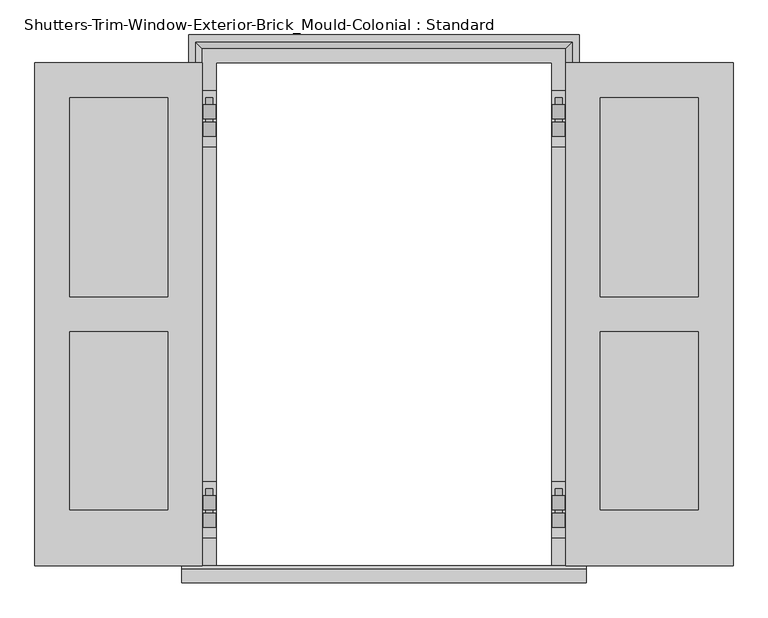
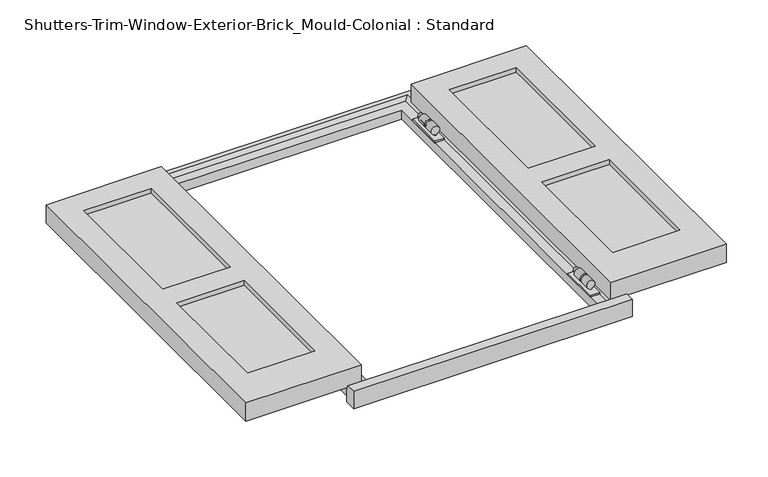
"""IFC4 building model written with IfcOpenShell, lengths in millimetres: proxy geometry, Shutters-Trim-Window-Exterior-Brick_Mould-Colonial : Standard."""

from ifc_helpers import new_model, si_unit, frame, origin, place, context, project, spatial, polyline, circle_curve, outline, extrude, faceted_brep, source, transform, mapped, element, save
from ifc_brep_helpers import plane_surface, cylinder_surface, revolved_surface, advanced_brep


def shutters_trim_window_exterior_brick_mould_colonial_standard_74fb2969(model_context):
    return source(origin(), model_context, "Body", "SolidModel", [
        extrude(outline(polyline([(-635.0, 0.0), (-330.2, 0.0), (-330.2, -914.4), (-635.0, -914.4), (-635.0, 0.0)]), holes=[polyline([(-571.5, -63.5), (-571.5, -425.45), (-393.7, -425.45), (-393.7, -63.5), (-571.5, -63.5)]), polyline([(-393.7, -488.95), (-571.5, -488.95), (-571.5, -812.8), (-393.7, -812.8), (-393.7, -488.95)])]), frame((0.0, 0.0, 38.89375), z_axis=(0.0, 0.0, 1.0), x_axis=(1.0, 0.0, 0.0)), (0.0, 0.0, 1.0), 50.8),
        extrude(outline(polyline([(-571.5, -63.5), (-393.7, -63.5), (-393.7, -425.45), (-571.5, -425.45), (-571.5, -63.5)])), frame((0.0, 0.0, 51.59375), z_axis=(0.0, 0.0, 1.0), x_axis=(1.0, 0.0, 0.0)), (0.0, 0.0, 1.0), 25.4),
        extrude(outline(polyline([(-393.7, -488.95), (-393.7, -812.8), (-571.5, -812.8), (-571.5, -488.95), (-393.7, -488.95)])), frame((0.0, 0.0, 51.59375), z_axis=(0.0, 0.0, 1.0), x_axis=(1.0, 0.0, 0.0)), (0.0, 0.0, 1.0), 25.4),
        extrude(outline(polyline([(635.0, 0.0), (635.0, -914.4), (330.2, -914.4), (330.2, 0.0), (635.0, 0.0)]), holes=[polyline([(571.5, -63.5), (393.7, -63.5), (393.7, -425.45), (571.5, -425.45), (571.5, -63.5)]), polyline([(393.7, -488.95), (393.7, -812.8), (571.5, -812.8), (571.5, -488.95), (393.7, -488.95)])]), frame((0.0, 0.0, 38.89375), z_axis=(0.0, 0.0, 1.0), x_axis=(1.0, 0.0, 0.0)), (0.0, 0.0, 1.0), 50.8),
        extrude(outline(polyline([(571.5, -63.5), (571.5, -425.45), (393.7, -425.45), (393.7, -63.5), (571.5, -63.5)])), frame((0.0, 0.0, 51.59375), z_axis=(0.0, 0.0, 1.0), x_axis=(1.0, 0.0, 0.0)), (0.0, 0.0, 1.0), 25.4),
        extrude(outline(polyline([(393.7, -488.95), (571.5, -488.95), (571.5, -812.8), (393.7, -812.8), (393.7, -488.95)])), frame((0.0, 0.0, 51.59375), z_axis=(0.0, 0.0, 1.0), x_axis=(1.0, 0.0, 0.0)), (0.0, 0.0, 1.0), 25.4),
        extrude(outline(polyline([(-330.2, -762.0), (-304.8, -762.0), (-304.8, -863.6), (-330.2, -863.6), (-330.2, -762.0)])), frame((0.0, 0.0, 26.19375), z_axis=(0.0, 0.0, 1.0), x_axis=(1.0, 0.0, 0.0)), (0.0, 0.0, 1.0), 4.7625),
        advanced_brep(
        [(-382.5875, -774.7, 38.89375), (-357.124, -774.7, 38.89375), (-357.124, -774.7, 34.13125), (-382.5875, -774.7, 34.13125), (-382.5875, -825.5, 34.13125), (-357.124, -825.5, 34.13125), (-357.124, -825.5, 38.89375), (-382.5875, -825.5, 38.89375), (-357.124, -787.4, 34.13125), (-317.5, -787.4, 34.13125), (-317.5, -812.8, 34.13125), (-357.124, -812.8, 34.13125), (-357.124, -812.8, 38.89375), (-317.5, -812.8, 38.89375), (-317.5, -787.4, 38.89375), (-357.124, -787.4, 38.89375), (-323.85, -812.8, 45.24375), (-323.85, -787.4, 45.24375), (-323.85, -812.8, 40.48125), (-323.85, -787.4, 40.48125), (-328.6125, -812.8, 40.48125), (-328.6125, -787.4, 40.48125), (-328.6125, -812.8, 45.24375), (-328.6125, -787.4, 45.24375)],
        [
            (0, 1),
            (1, 2),
            (2, 3),
            (3, 0),
            (4, 5),
            (5, 6),
            (6, 7),
            (7, 4),
            (2, 8),
            (8, 9),
            (9, 10),
            (10, 11),
            (11, 5),
            (4, 3),
            (7, 0),
            (6, 12),
            (12, 13),
            (13, 14),
            (14, 15),
            (15, 1),
            (16, 17),
            (17, 14, circle_curve(frame((-317.5, -787.4, 45.24375), z_axis=(0.0, 1.0, 0.0), x_axis=(1.0, 0.0, 0.0)), 6.35)),
            (13, 16, circle_curve(frame((-317.5, -812.8, 45.24375), z_axis=(0.0, -1.0, 0.0), x_axis=(1.0, 0.0, 0.0)), 6.35)),
            (18, 19),
            (19, 17),
            (16, 18),
            (20, 21),
            (21, 19),
            (18, 20),
            (22, 23),
            (23, 21),
            (20, 22),
            (9, 23, circle_curve(frame((-317.5, -787.4, 45.24375), z_axis=(0.0, -1.0, 0.0), x_axis=(1.0, 0.0, 0.0)), 11.1125)),
            (22, 10, circle_curve(frame((-317.5, -812.8, 45.24375), z_axis=(0.0, 1.0, 0.0), x_axis=(1.0, 0.0, 0.0)), 11.1125)),
            (12, 11),
            (8, 15),
        ],
        [
            plane_surface(frame((-317.5, -774.7, 45.24375), z_axis=(0.0, 1.0, 0.0), x_axis=(0.0, 0.0, 1.0))),
            plane_surface(frame((-317.5, -825.5, 45.24375), z_axis=(0.0, -1.0, 0.0), x_axis=(0.0, 0.0, 1.0))),
            plane_surface(frame((-382.5875, -774.7, 34.13125), z_axis=(0.0, 0.0, -1.0), x_axis=(0.0, -1.0, 0.0))),
            plane_surface(frame((-382.5875, -774.7, 38.89375), z_axis=(-1.0, 0.0, 0.0), x_axis=(0.0, -1.0, 0.0))),
            plane_surface(frame((-317.5, -774.7, 38.89375), z_axis=(0.0, 0.0, 1.0), x_axis=(0.0, -1.0, 0.0))),
            revolved_surface(polyline([(-311.15, -812.8, 45.24375), (-311.15, -787.4, 45.24375)]), (-317.5, -774.7, 45.24375), (0.0, -1.0, 0.0)),
            plane_surface(frame((-323.85, -774.7, 40.48125), z_axis=(1.0, 0.0, 0.0), x_axis=(0.0, -1.0, 0.0))),
            plane_surface(frame((-328.6125, -774.7, 40.48125), z_axis=(0.0, 0.0, -1.0), x_axis=(0.0, -1.0, 0.0))),
            plane_surface(frame((-328.6125, -774.7, 45.24375), z_axis=(-1.0, 0.0, 0.0), x_axis=(0.0, -1.0, 0.0))),
            cylinder_surface(frame((-317.5, -774.7, 45.24375), z_axis=(0.0, 1.0, 0.0), x_axis=(1.0, 0.0, 0.0)), 11.1125),
            plane_surface(frame((-317.5, -812.8, 45.24375), z_axis=(0.0, -1.0, 0.0), x_axis=(0.0, 0.0, 1.0))),
            plane_surface(frame((-357.124, -812.8, 38.89375), z_axis=(1.0, 0.0, 0.0), x_axis=(0.0, -1.0, 0.0))),
            plane_surface(frame((-317.5, -787.4, 45.24375), z_axis=(0.0, 1.0, 0.0), x_axis=(0.0, 0.0, 1.0))),
            plane_surface(frame((-357.124, -774.7, 38.89375), z_axis=(1.0, 0.0, 0.0), x_axis=(0.0, -1.0, 0.0))),
        ],
        [
            (0, [[1, 2, 3, 4]]),
            (1, [[5, 6, 7, 8]]),
            (2, [[-3, 9, 10, 11, 12, 13, -5, 14]]),
            (3, [[-14, -8, 15, -4]]),
            (4, [[-7, 16, 17, 18, 19, 20, -1, -15]]),
            (5, [[21, 22, -18, 23]]),
            (6, [[24, 25, -21, 26]]),
            (7, [[27, 28, -24, 29]]),
            (8, [[30, 31, -27, 32]]),
            (9, [[-11, 33, -30, 34]]),
            (10, [[-12, -34, -32, -29, -26, -23, -17, 35]]),
            (11, [[-16, -6, -13, -35]]),
            (12, [[-19, -22, -25, -28, -31, -33, -10, 36]]),
            (13, [[-9, -2, -20, -36]]),
        ],
    ),
        advanced_brep(
        [(-319.88125, -819.15, 30.95625), (-319.88125, -819.15, 34.389382), (-315.11875, -819.15, 34.389382), (-315.11875, -819.15, 30.95625), (-311.15, -819.15, 45.24375), (-323.85, -819.15, 45.24375), (-319.88125, -844.55, 30.95625), (-315.11875, -844.55, 30.95625), (-315.11875, -844.55, 34.389382), (-319.88125, -844.55, 34.389382), (-323.85, -774.7, 45.24375), (-311.15, -774.7, 45.24375)],
        [
            (0, 1),
            (1, 2, circle_curve(frame((-317.5, -819.15, 45.24375), z_axis=(0.0, 1.0, 0.0), x_axis=(1.0, 0.0, 0.0)), 11.1125)),
            (2, 3),
            (3, 0),
            (4, 5, circle_curve(frame((-317.5, -819.15, 45.24375), z_axis=(0.0, -1.0, 0.0), x_axis=(1.0, 0.0, 0.0)), 6.35)),
            (5, 4, circle_curve(frame((-317.5, -819.15, 45.24375), z_axis=(0.0, -1.0, 0.0), x_axis=(1.0, 0.0, 0.0)), 6.35)),
            (6, 7),
            (7, 8),
            (8, 9, circle_curve(frame((-317.5, -844.55, 45.24375), z_axis=(0.0, -1.0, 0.0), x_axis=(1.0, 0.0, 0.0)), 11.1125)),
            (9, 6),
            (0, 6),
            (9, 1),
            (3, 7),
            (2, 8),
            (10, 11, circle_curve(frame((-317.5, -774.7, 45.24375), z_axis=(0.0, 1.0, 0.0), x_axis=(1.0, 0.0, 0.0)), 6.35)),
            (11, 10, circle_curve(frame((-317.5, -774.7, 45.24375), z_axis=(0.0, 1.0, 0.0), x_axis=(1.0, 0.0, 0.0)), 6.35)),
            (11, 4),
            (5, 10),
        ],
        [
            plane_surface(frame((-315.11875, -819.15, 30.95625), z_axis=(0.0, 1.0, 0.0), x_axis=(1.0, 0.0, 6.242784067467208e-12))),
            plane_surface(frame((-315.11875, -844.55, 30.95625), z_axis=(0.0, -1.0, 0.0), x_axis=(-1.0, 0.0, -6.242784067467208e-12))),
            plane_surface(frame((-319.88125, -819.15, 34.389382), z_axis=(-1.0, 0.0, 0.0), x_axis=(0.0, -1.0, 0.0))),
            plane_surface(frame((-319.88125, -819.15, 30.95625), z_axis=(6.242784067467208e-12, 0.0, -1.0), x_axis=(0.0, -1.0, 0.0))),
            plane_surface(frame((-315.11875, -819.15, 30.95625), z_axis=(1.0, 0.0, 0.0), x_axis=(0.0, -1.0, 0.0))),
            cylinder_surface(frame((-317.5, -844.55, 45.24375), z_axis=(0.0, 1.0, 0.0), x_axis=(1.0, 0.0, 0.0)), 11.1125),
            plane_surface(frame((-311.15, -774.7, 45.24375), z_axis=(0.0, 1.0, 0.0), x_axis=(0.0, 0.0, 1.0))),
            cylinder_surface(frame((-317.5, -844.55, 45.24375), z_axis=(0.0, 1.0, 0.0), x_axis=(1.0, 0.0, 0.0)), 6.35),
        ],
        [
            (0, [[1, 2, 3, 4], [5, 6]]),
            (1, [[7, 8, 9, 10]]),
            (2, [[11, -10, 12, -1]]),
            (3, [[13, -7, -11, -4]]),
            (4, [[14, -8, -13, -3]]),
            (5, [[-12, -9, -14, -2]]),
            (6, [[15, 16]]),
            (7, [[17, -6, 18, -16]]),
            (7, [[-18, -5, -17, -15]]),
        ],
    ),
        extrude(outline(polyline([(330.2, -762.0), (330.2, -863.6), (304.8, -863.6), (304.8, -762.0), (330.2, -762.0)])), frame((0.0, 0.0, 26.19375), z_axis=(0.0, 0.0, 1.0), x_axis=(1.0, 0.0, 0.0)), (0.0, 0.0, 1.0), 4.7625),
        advanced_brep(
        [(382.5875, -774.7, 38.89375), (382.5875, -774.7, 34.13125), (357.124, -774.7, 34.13125), (357.124, -774.7, 38.89375), (382.5875, -825.5, 34.13125), (382.5875, -825.5, 38.89375), (357.124, -825.5, 38.89375), (357.124, -825.5, 34.13125), (357.124, -812.8, 34.13125), (317.5, -812.8, 34.13125), (317.5, -787.4, 34.13125), (357.124, -787.4, 34.13125), (357.124, -787.4, 38.89375), (317.5, -787.4, 38.89375), (317.5, -812.8, 38.89375), (357.124, -812.8, 38.89375), (323.85, -812.8, 45.24375), (323.85, -787.4, 45.24375), (323.85, -812.8, 40.48125), (323.85, -787.4, 40.48125), (328.6125, -812.8, 40.48125), (328.6125, -787.4, 40.48125), (328.6125, -812.8, 45.24375), (328.6125, -787.4, 45.24375)],
        [
            (0, 1),
            (1, 2),
            (2, 3),
            (3, 0),
            (4, 5),
            (5, 6),
            (6, 7),
            (7, 4),
            (1, 4),
            (7, 8),
            (8, 9),
            (9, 10),
            (10, 11),
            (11, 2),
            (0, 5),
            (3, 12),
            (12, 13),
            (13, 14),
            (14, 15),
            (15, 6),
            (16, 14, circle_curve(frame((317.5, -812.8, 45.24375), z_axis=(0.0, -1.0, 0.0), x_axis=(-1.0, 0.0, 0.0)), 6.35)),
            (13, 17, circle_curve(frame((317.5, -787.4, 45.24375), z_axis=(0.0, 1.0, 0.0), x_axis=(-1.0, 0.0, 0.0)), 6.35)),
            (17, 16),
            (18, 16),
            (17, 19),
            (19, 18),
            (20, 18),
            (19, 21),
            (21, 20),
            (22, 20),
            (21, 23),
            (23, 22),
            (9, 22, circle_curve(frame((317.5, -812.8, 45.24375), z_axis=(0.0, 1.0, 0.0), x_axis=(-1.0, 0.0, 0.0)), 11.1125)),
            (23, 10, circle_curve(frame((317.5, -787.4, 45.24375), z_axis=(0.0, -1.0, 0.0), x_axis=(-1.0, 0.0, 0.0)), 11.1125)),
            (8, 15),
            (12, 11),
        ],
        [
            plane_surface(frame((317.5, -774.7, 45.24375), z_axis=(0.0, 1.0, 0.0), x_axis=(0.0, 0.0, 1.0))),
            plane_surface(frame((317.5, -825.5, 45.24375), z_axis=(0.0, -1.0, 0.0), x_axis=(0.0, 0.0, 1.0))),
            plane_surface(frame((382.5875, -774.7, 34.13125), z_axis=(0.0, 0.0, -1.0), x_axis=(0.0, -1.0, 0.0))),
            plane_surface(frame((382.5875, -774.7, 38.89375), z_axis=(1.0, 0.0, 0.0), x_axis=(0.0, -1.0, 0.0))),
            plane_surface(frame((317.5, -774.7, 38.89375), z_axis=(0.0, 0.0, 1.0), x_axis=(0.0, -1.0, 0.0))),
            revolved_surface(polyline([(311.15, -812.8, 45.24375), (311.15, -787.4, 45.24375)]), (317.5, -774.7, 45.24375), (0.0, -1.0, 0.0)),
            plane_surface(frame((323.85, -774.7, 40.48125), z_axis=(-1.0, 0.0, 0.0), x_axis=(0.0, -1.0, 0.0))),
            plane_surface(frame((328.6125, -774.7, 40.48125), z_axis=(0.0, 0.0, -1.0), x_axis=(0.0, -1.0, 0.0))),
            plane_surface(frame((328.6125, -774.7, 45.24375), z_axis=(1.0, 0.0, 0.0), x_axis=(0.0, -1.0, 0.0))),
            cylinder_surface(frame((317.5, -774.7, 45.24375), z_axis=(0.0, 1.0, 0.0), x_axis=(-1.0, 0.0, 0.0)), 11.1125),
            plane_surface(frame((317.5, -812.8, 45.24375), z_axis=(0.0, -1.0, 0.0), x_axis=(0.0, 0.0, 1.0))),
            plane_surface(frame((357.124, -812.8, 38.89375), z_axis=(-1.0, 0.0, 0.0), x_axis=(0.0, -1.0, 0.0))),
            plane_surface(frame((317.5, -787.4, 45.24375), z_axis=(0.0, 1.0, 0.0), x_axis=(0.0, 0.0, 1.0))),
            plane_surface(frame((357.124, -774.7, 38.89375), z_axis=(-1.0, 0.0, 0.0), x_axis=(0.0, -1.0, 0.0))),
        ],
        [
            (0, [[1, 2, 3, 4]]),
            (1, [[5, 6, 7, 8]]),
            (2, [[9, -8, 10, 11, 12, 13, 14, -2]]),
            (3, [[-1, 15, -5, -9]]),
            (4, [[-15, -4, 16, 17, 18, 19, 20, -6]]),
            (5, [[21, -18, 22, 23]]),
            (6, [[24, -23, 25, 26]]),
            (7, [[27, -26, 28, 29]]),
            (8, [[30, -29, 31, 32]]),
            (9, [[33, -32, 34, -12]]),
            (10, [[35, -19, -21, -24, -27, -30, -33, -11]]),
            (11, [[-35, -10, -7, -20]]),
            (12, [[36, -13, -34, -31, -28, -25, -22, -17]]),
            (13, [[-36, -16, -3, -14]]),
        ],
    ),
        advanced_brep(
        [(319.88125, -819.15, 30.95625), (315.11875, -819.15, 30.95625), (315.11875, -819.15, 34.389382), (319.88125, -819.15, 34.389382), (311.15, -819.15, 45.24375), (323.85, -819.15, 45.24375), (319.88125, -844.55, 30.95625), (319.88125, -844.55, 34.389382), (315.11875, -844.55, 34.389382), (315.11875, -844.55, 30.95625), (323.85, -774.7, 45.24375), (311.15, -774.7, 45.24375)],
        [
            (0, 1),
            (1, 2),
            (2, 3, circle_curve(frame((317.5, -819.15, 45.24375), z_axis=(0.0, 1.0, 0.0), x_axis=(-1.0, 0.0, 0.0)), 11.1125)),
            (3, 0),
            (4, 5, circle_curve(frame((317.5, -819.15, 45.24375), z_axis=(0.0, -1.0, 0.0), x_axis=(-1.0, 0.0, 0.0)), 6.35)),
            (5, 4, circle_curve(frame((317.5, -819.15, 45.24375), z_axis=(0.0, -1.0, 0.0), x_axis=(-1.0, 0.0, 0.0)), 6.35)),
            (6, 7),
            (7, 8, circle_curve(frame((317.5, -844.55, 45.24375), z_axis=(0.0, -1.0, 0.0), x_axis=(-1.0, 0.0, 0.0)), 11.1125)),
            (8, 9),
            (9, 6),
            (3, 7),
            (6, 0),
            (9, 1),
            (8, 2),
            (10, 11, circle_curve(frame((317.5, -774.7, 45.24375), z_axis=(0.0, 1.0, 0.0), x_axis=(-1.0, 0.0, 0.0)), 6.35)),
            (11, 10, circle_curve(frame((317.5, -774.7, 45.24375), z_axis=(0.0, 1.0, 0.0), x_axis=(-1.0, 0.0, 0.0)), 6.35)),
            (10, 5),
            (4, 11),
        ],
        [
            plane_surface(frame((315.11875, -819.15, 30.95625), z_axis=(0.0, 1.0, 0.0), x_axis=(-1.0, 0.0, 6.242784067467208e-12))),
            plane_surface(frame((315.11875, -844.55, 30.95625), z_axis=(0.0, -1.0, 0.0), x_axis=(1.0, 0.0, -6.242784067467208e-12))),
            plane_surface(frame((319.88125, -819.15, 34.389382), z_axis=(1.0, 0.0, 0.0), x_axis=(0.0, -1.0, 0.0))),
            plane_surface(frame((319.88125, -819.15, 30.95625), z_axis=(-6.242784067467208e-12, 0.0, -1.0), x_axis=(0.0, -1.0, 0.0))),
            plane_surface(frame((315.11875, -819.15, 30.95625), z_axis=(-1.0, 0.0, 0.0), x_axis=(0.0, -1.0, 0.0))),
            cylinder_surface(frame((317.5, -844.55, 45.24375), z_axis=(0.0, 1.0, 0.0), x_axis=(-1.0, 0.0, 0.0)), 11.1125),
            plane_surface(frame((311.15, -774.7, 45.24375), z_axis=(0.0, 1.0, 0.0), x_axis=(0.0, 0.0, 1.0))),
            cylinder_surface(frame((317.5, -844.55, 45.24375), z_axis=(0.0, 1.0, 0.0), x_axis=(-1.0, 0.0, 0.0)), 6.35),
        ],
        [
            (0, [[1, 2, 3, 4], [5, 6]]),
            (1, [[7, 8, 9, 10]]),
            (2, [[-4, 11, -7, 12]]),
            (3, [[-1, -12, -10, 13]]),
            (4, [[-2, -13, -9, 14]]),
            (5, [[-3, -14, -8, -11]]),
            (6, [[15, 16]]),
            (7, [[-15, 17, -5, 18]]),
            (7, [[-16, -18, -6, -17]]),
        ],
    ),
        extrude(outline(polyline([(330.2, -50.8), (330.2, -152.4), (304.8, -152.4), (304.8, -50.8), (330.2, -50.8)])), frame((0.0, 0.0, 26.19375), z_axis=(0.0, 0.0, 1.0), x_axis=(1.0, 0.0, 0.0)), (0.0, 0.0, 1.0), 4.7625),
        advanced_brep(
        [(382.5875, -63.5, 38.89375), (382.5875, -63.5, 34.13125), (357.124, -63.5, 34.13125), (357.124, -63.5, 38.89375), (382.5875, -114.3, 34.13125), (382.5875, -114.3, 38.89375), (357.124, -114.3, 38.89375), (357.124, -114.3, 34.13125), (357.124, -101.6, 34.13125), (317.5, -101.6, 34.13125), (317.5, -76.2, 34.13125), (357.124, -76.2, 34.13125), (357.124, -76.2, 38.89375), (317.5, -76.2, 38.89375), (317.5, -101.6, 38.89375), (357.124, -101.6, 38.89375), (323.85, -101.6, 45.24375), (323.85, -76.2, 45.24375), (323.85, -101.6, 40.48125), (323.85, -76.2, 40.48125), (328.6125, -101.6, 40.48125), (328.6125, -76.2, 40.48125), (328.6125, -101.6, 45.24375), (328.6125, -76.2, 45.24375)],
        [
            (0, 1),
            (1, 2),
            (2, 3),
            (3, 0),
            (4, 5),
            (5, 6),
            (6, 7),
            (7, 4),
            (1, 4),
            (7, 8),
            (8, 9),
            (9, 10),
            (10, 11),
            (11, 2),
            (0, 5),
            (3, 12),
            (12, 13),
            (13, 14),
            (14, 15),
            (15, 6),
            (16, 14, circle_curve(frame((317.5, -101.6, 45.24375), z_axis=(0.0, -1.0, 0.0), x_axis=(-1.0, 0.0, 0.0)), 6.35)),
            (13, 17, circle_curve(frame((317.5, -76.2, 45.24375), z_axis=(0.0, 1.0, 0.0), x_axis=(-1.0, 0.0, 0.0)), 6.35)),
            (17, 16),
            (18, 16),
            (17, 19),
            (19, 18),
            (20, 18),
            (19, 21),
            (21, 20),
            (22, 20),
            (21, 23),
            (23, 22),
            (9, 22, circle_curve(frame((317.5, -101.6, 45.24375), z_axis=(0.0, 1.0, 0.0), x_axis=(-1.0, 0.0, 0.0)), 11.1125)),
            (23, 10, circle_curve(frame((317.5, -76.2, 45.24375), z_axis=(0.0, -1.0, 0.0), x_axis=(-1.0, 0.0, 0.0)), 11.1125)),
            (8, 15),
            (12, 11),
        ],
        [
            plane_surface(frame((317.5, -63.5, 45.24375), z_axis=(0.0, 1.0, 0.0), x_axis=(0.0, 0.0, 1.0))),
            plane_surface(frame((317.5, -114.3, 45.24375), z_axis=(0.0, -1.0, 0.0), x_axis=(0.0, 0.0, 1.0))),
            plane_surface(frame((382.5875, -63.5, 34.13125), z_axis=(0.0, 0.0, -1.0), x_axis=(0.0, -1.0, 0.0))),
            plane_surface(frame((382.5875, -63.5, 38.89375), z_axis=(1.0, 0.0, 0.0), x_axis=(0.0, -1.0, 0.0))),
            plane_surface(frame((317.5, -63.5, 38.89375), z_axis=(0.0, 0.0, 1.0), x_axis=(0.0, -1.0, 0.0))),
            revolved_surface(polyline([(311.15, -101.6, 45.24375), (311.15, -76.2, 45.24375)]), (317.5, -63.5, 45.24375), (0.0, -1.0, 0.0)),
            plane_surface(frame((323.85, -63.5, 40.48125), z_axis=(-1.0, 0.0, 0.0), x_axis=(0.0, -1.0, 0.0))),
            plane_surface(frame((328.6125, -63.5, 40.48125), z_axis=(0.0, 0.0, -1.0), x_axis=(0.0, -1.0, 0.0))),
            plane_surface(frame((328.6125, -63.5, 45.24375), z_axis=(1.0, 0.0, 0.0), x_axis=(0.0, -1.0, 0.0))),
            cylinder_surface(frame((317.5, -63.5, 45.24375), z_axis=(0.0, 1.0, 0.0), x_axis=(-1.0, 0.0, 0.0)), 11.1125),
            plane_surface(frame((317.5, -101.6, 45.24375), z_axis=(0.0, -1.0, 0.0), x_axis=(0.0, 0.0, 1.0))),
            plane_surface(frame((357.124, -101.6, 38.89375), z_axis=(-1.0, 0.0, 0.0), x_axis=(0.0, -1.0, 0.0))),
            plane_surface(frame((317.5, -76.2, 45.24375), z_axis=(0.0, 1.0, 0.0), x_axis=(0.0, 0.0, 1.0))),
            plane_surface(frame((357.124, -63.5, 38.89375), z_axis=(-1.0, 0.0, 0.0), x_axis=(0.0, -1.0, 0.0))),
        ],
        [
            (0, [[1, 2, 3, 4]]),
            (1, [[5, 6, 7, 8]]),
            (2, [[9, -8, 10, 11, 12, 13, 14, -2]]),
            (3, [[-1, 15, -5, -9]]),
            (4, [[-15, -4, 16, 17, 18, 19, 20, -6]]),
            (5, [[21, -18, 22, 23]]),
            (6, [[24, -23, 25, 26]]),
            (7, [[27, -26, 28, 29]]),
            (8, [[30, -29, 31, 32]]),
            (9, [[33, -32, 34, -12]]),
            (10, [[35, -19, -21, -24, -27, -30, -33, -11]]),
            (11, [[-35, -10, -7, -20]]),
            (12, [[36, -13, -34, -31, -28, -25, -22, -17]]),
            (13, [[-36, -16, -3, -14]]),
        ],
    ),
        advanced_brep(
        [(319.88125, -107.95, 30.95625), (315.11875, -107.95, 30.95625), (315.11875, -107.95, 34.389382), (319.88125, -107.95, 34.389382), (311.15, -107.95, 45.24375), (323.85, -107.95, 45.24375), (319.88125, -133.35, 30.95625), (319.88125, -133.35, 34.389382), (315.11875, -133.35, 34.389382), (315.11875, -133.35, 30.95625), (323.85, -63.5, 45.24375), (311.15, -63.5, 45.24375)],
        [
            (0, 1),
            (1, 2),
            (2, 3, circle_curve(frame((317.5, -107.95, 45.24375), z_axis=(0.0, 1.0, 0.0), x_axis=(-1.0, 0.0, 0.0)), 11.1125)),
            (3, 0),
            (4, 5, circle_curve(frame((317.5, -107.95, 45.24375), z_axis=(0.0, -1.0, 0.0), x_axis=(-1.0, 0.0, 0.0)), 6.35)),
            (5, 4, circle_curve(frame((317.5, -107.95, 45.24375), z_axis=(0.0, -1.0, 0.0), x_axis=(-1.0, 0.0, 0.0)), 6.35)),
            (6, 7),
            (7, 8, circle_curve(frame((317.5, -133.35, 45.24375), z_axis=(0.0, -1.0, 0.0), x_axis=(-1.0, 0.0, 0.0)), 11.1125)),
            (8, 9),
            (9, 6),
            (3, 7),
            (6, 0),
            (9, 1),
            (8, 2),
            (10, 11, circle_curve(frame((317.5, -63.5, 45.24375), z_axis=(0.0, 1.0, 0.0), x_axis=(-1.0, 0.0, 0.0)), 6.35)),
            (11, 10, circle_curve(frame((317.5, -63.5, 45.24375), z_axis=(0.0, 1.0, 0.0), x_axis=(-1.0, 0.0, 0.0)), 6.35)),
            (10, 5),
            (4, 11),
        ],
        [
            plane_surface(frame((315.11875, -107.95, 30.95625), z_axis=(0.0, 1.0, 0.0), x_axis=(-1.0, 0.0, 6.242784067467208e-12))),
            plane_surface(frame((315.11875, -133.35, 30.95625), z_axis=(0.0, -1.0, 0.0), x_axis=(1.0, 0.0, -6.242784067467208e-12))),
            plane_surface(frame((319.88125, -107.95, 34.389382), z_axis=(1.0, 0.0, 0.0), x_axis=(0.0, -1.0, 0.0))),
            plane_surface(frame((319.88125, -107.95, 30.95625), z_axis=(-6.242784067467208e-12, 0.0, -1.0), x_axis=(0.0, -1.0, 0.0))),
            plane_surface(frame((315.11875, -107.95, 30.95625), z_axis=(-1.0, 0.0, 0.0), x_axis=(0.0, -1.0, 0.0))),
            cylinder_surface(frame((317.5, -133.35, 45.24375), z_axis=(0.0, 1.0, 0.0), x_axis=(-1.0, 0.0, 0.0)), 11.1125),
            plane_surface(frame((311.15, -63.5, 45.24375), z_axis=(0.0, 1.0, 0.0), x_axis=(0.0, 0.0, 1.0))),
            cylinder_surface(frame((317.5, -133.35, 45.24375), z_axis=(0.0, 1.0, 0.0), x_axis=(-1.0, 0.0, 0.0)), 6.35),
        ],
        [
            (0, [[1, 2, 3, 4], [5, 6]]),
            (1, [[7, 8, 9, 10]]),
            (2, [[-4, 11, -7, 12]]),
            (3, [[-1, -12, -10, 13]]),
            (4, [[-2, -13, -9, 14]]),
            (5, [[-3, -14, -8, -11]]),
            (6, [[15, 16]]),
            (7, [[-15, 17, -5, 18]]),
            (7, [[-16, -18, -6, -17]]),
        ],
    ),
        extrude(outline(polyline([(-330.2, -50.8), (-304.8, -50.8), (-304.8, -152.4), (-330.2, -152.4), (-330.2, -50.8)])), frame((0.0, 0.0, 26.19375), z_axis=(0.0, 0.0, 1.0), x_axis=(1.0, 0.0, 0.0)), (0.0, 0.0, 1.0), 4.7625),
        advanced_brep(
        [(-382.5875, -63.5, 38.89375), (-357.124, -63.5, 38.89375), (-357.124, -63.5, 34.13125), (-382.5875, -63.5, 34.13125), (-382.5875, -114.3, 34.13125), (-357.124, -114.3, 34.13125), (-357.124, -114.3, 38.89375), (-382.5875, -114.3, 38.89375), (-357.124, -76.2, 34.13125), (-317.5, -76.2, 34.13125), (-317.5, -101.6, 34.13125), (-357.124, -101.6, 34.13125), (-357.124, -101.6, 38.89375), (-317.5, -101.6, 38.89375), (-317.5, -76.2, 38.89375), (-357.124, -76.2, 38.89375), (-323.85, -101.6, 45.24375), (-323.85, -76.2, 45.24375), (-323.85, -101.6, 40.48125), (-323.85, -76.2, 40.48125), (-328.6125, -101.6, 40.48125), (-328.6125, -76.2, 40.48125), (-328.6125, -101.6, 45.24375), (-328.6125, -76.2, 45.24375)],
        [
            (0, 1),
            (1, 2),
            (2, 3),
            (3, 0),
            (4, 5),
            (5, 6),
            (6, 7),
            (7, 4),
            (2, 8),
            (8, 9),
            (9, 10),
            (10, 11),
            (11, 5),
            (4, 3),
            (7, 0),
            (6, 12),
            (12, 13),
            (13, 14),
            (14, 15),
            (15, 1),
            (16, 17),
            (17, 14, circle_curve(frame((-317.5, -76.2, 45.24375), z_axis=(0.0, 1.0, 0.0), x_axis=(1.0, 0.0, 0.0)), 6.35)),
            (13, 16, circle_curve(frame((-317.5, -101.6, 45.24375), z_axis=(0.0, -1.0, 0.0), x_axis=(1.0, 0.0, 0.0)), 6.35)),
            (18, 19),
            (19, 17),
            (16, 18),
            (20, 21),
            (21, 19),
            (18, 20),
            (22, 23),
            (23, 21),
            (20, 22),
            (9, 23, circle_curve(frame((-317.5, -76.2, 45.24375), z_axis=(0.0, -1.0, 0.0), x_axis=(1.0, 0.0, 0.0)), 11.1125)),
            (22, 10, circle_curve(frame((-317.5, -101.6, 45.24375), z_axis=(0.0, 1.0, 0.0), x_axis=(1.0, 0.0, 0.0)), 11.1125)),
            (12, 11),
            (8, 15),
        ],
        [
            plane_surface(frame((-317.5, -63.5, 45.24375), z_axis=(0.0, 1.0, 0.0), x_axis=(0.0, 0.0, 1.0))),
            plane_surface(frame((-317.5, -114.3, 45.24375), z_axis=(0.0, -1.0, 0.0), x_axis=(0.0, 0.0, 1.0))),
            plane_surface(frame((-382.5875, -63.5, 34.13125), z_axis=(0.0, 0.0, -1.0), x_axis=(0.0, -1.0, 0.0))),
            plane_surface(frame((-382.5875, -63.5, 38.89375), z_axis=(-1.0, 0.0, 0.0), x_axis=(0.0, -1.0, 0.0))),
            plane_surface(frame((-317.5, -63.5, 38.89375), z_axis=(0.0, 0.0, 1.0), x_axis=(0.0, -1.0, 0.0))),
            revolved_surface(polyline([(-311.15, -101.6, 45.24375), (-311.15, -76.2, 45.24375)]), (-317.5, -63.5, 45.24375), (0.0, -1.0, 0.0)),
            plane_surface(frame((-323.85, -63.5, 40.48125), z_axis=(1.0, 0.0, 0.0), x_axis=(0.0, -1.0, 0.0))),
            plane_surface(frame((-328.6125, -63.5, 40.48125), z_axis=(0.0, 0.0, -1.0), x_axis=(0.0, -1.0, 0.0))),
            plane_surface(frame((-328.6125, -63.5, 45.24375), z_axis=(-1.0, 0.0, 0.0), x_axis=(0.0, -1.0, 0.0))),
            cylinder_surface(frame((-317.5, -63.5, 45.24375), z_axis=(0.0, 1.0, 0.0), x_axis=(1.0, 0.0, 0.0)), 11.1125),
            plane_surface(frame((-317.5, -101.6, 45.24375), z_axis=(0.0, -1.0, 0.0), x_axis=(0.0, 0.0, 1.0))),
            plane_surface(frame((-357.124, -101.6, 38.89375), z_axis=(1.0, 0.0, 0.0), x_axis=(0.0, -1.0, 0.0))),
            plane_surface(frame((-317.5, -76.2, 45.24375), z_axis=(0.0, 1.0, 0.0), x_axis=(0.0, 0.0, 1.0))),
            plane_surface(frame((-357.124, -63.5, 38.89375), z_axis=(1.0, 0.0, 0.0), x_axis=(0.0, -1.0, 0.0))),
        ],
        [
            (0, [[1, 2, 3, 4]]),
            (1, [[5, 6, 7, 8]]),
            (2, [[-3, 9, 10, 11, 12, 13, -5, 14]]),
            (3, [[-14, -8, 15, -4]]),
            (4, [[-7, 16, 17, 18, 19, 20, -1, -15]]),
            (5, [[21, 22, -18, 23]]),
            (6, [[24, 25, -21, 26]]),
            (7, [[27, 28, -24, 29]]),
            (8, [[30, 31, -27, 32]]),
            (9, [[-11, 33, -30, 34]]),
            (10, [[-12, -34, -32, -29, -26, -23, -17, 35]]),
            (11, [[-16, -6, -13, -35]]),
            (12, [[-19, -22, -25, -28, -31, -33, -10, 36]]),
            (13, [[-9, -2, -20, -36]]),
        ],
    ),
        advanced_brep(
        [(-319.88125, -107.95, 30.95625), (-319.88125, -107.95, 34.389382), (-315.11875, -107.95, 34.389382), (-315.11875, -107.95, 30.95625), (-311.15, -107.95, 45.24375), (-323.85, -107.95, 45.24375), (-319.88125, -133.35, 30.95625), (-315.11875, -133.35, 30.95625), (-315.11875, -133.35, 34.389382), (-319.88125, -133.35, 34.389382), (-323.85, -63.5, 45.24375), (-311.15, -63.5, 45.24375)],
        [
            (0, 1),
            (1, 2, circle_curve(frame((-317.5, -107.95, 45.24375), z_axis=(0.0, 1.0, 0.0), x_axis=(1.0, 0.0, 0.0)), 11.1125)),
            (2, 3),
            (3, 0),
            (4, 5, circle_curve(frame((-317.5, -107.95, 45.24375), z_axis=(0.0, -1.0, 0.0), x_axis=(1.0, 0.0, 0.0)), 6.35)),
            (5, 4, circle_curve(frame((-317.5, -107.95, 45.24375), z_axis=(0.0, -1.0, 0.0), x_axis=(1.0, 0.0, 0.0)), 6.35)),
            (6, 7),
            (7, 8),
            (8, 9, circle_curve(frame((-317.5, -133.35, 45.24375), z_axis=(0.0, -1.0, 0.0), x_axis=(1.0, 0.0, 0.0)), 11.1125)),
            (9, 6),
            (0, 6),
            (9, 1),
            (3, 7),
            (2, 8),
            (10, 11, circle_curve(frame((-317.5, -63.5, 45.24375), z_axis=(0.0, 1.0, 0.0), x_axis=(1.0, 0.0, 0.0)), 6.35)),
            (11, 10, circle_curve(frame((-317.5, -63.5, 45.24375), z_axis=(0.0, 1.0, 0.0), x_axis=(1.0, 0.0, 0.0)), 6.35)),
            (11, 4),
            (5, 10),
        ],
        [
            plane_surface(frame((-315.11875, -107.95, 30.95625), z_axis=(0.0, 1.0, 0.0), x_axis=(1.0, 0.0, 6.242784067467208e-12))),
            plane_surface(frame((-315.11875, -133.35, 30.95625), z_axis=(0.0, -1.0, 0.0), x_axis=(-1.0, 0.0, -6.242784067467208e-12))),
            plane_surface(frame((-319.88125, -107.95, 34.389382), z_axis=(-1.0, 0.0, 0.0), x_axis=(0.0, -1.0, 0.0))),
            plane_surface(frame((-319.88125, -107.95, 30.95625), z_axis=(6.242784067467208e-12, 0.0, -1.0), x_axis=(0.0, -1.0, 0.0))),
            plane_surface(frame((-315.11875, -107.95, 30.95625), z_axis=(1.0, 0.0, 0.0), x_axis=(0.0, -1.0, 0.0))),
            cylinder_surface(frame((-317.5, -133.35, 45.24375), z_axis=(0.0, 1.0, 0.0), x_axis=(1.0, 0.0, 0.0)), 11.1125),
            plane_surface(frame((-311.15, -63.5, 45.24375), z_axis=(0.0, 1.0, 0.0), x_axis=(0.0, 0.0, 1.0))),
            cylinder_surface(frame((-317.5, -133.35, 45.24375), z_axis=(0.0, 1.0, 0.0), x_axis=(1.0, 0.0, 0.0)), 6.35),
        ],
        [
            (0, [[1, 2, 3, 4], [5, 6]]),
            (1, [[7, 8, 9, 10]]),
            (2, [[11, -10, 12, -1]]),
            (3, [[13, -7, -11, -4]]),
            (4, [[14, -8, -13, -3]]),
            (5, [[-12, -9, -14, -2]]),
            (6, [[15, 16]]),
            (7, [[17, -6, 18, -16]]),
            (7, [[-18, -5, -17, -15]]),
        ],
    ),
        extrude(outline(polyline([(-914.4, 31.75), (-914.4, 0.0), (-946.15, 0.0), (-946.15, 47.625), (-920.1780275, 47.625), (-914.4, 31.75)])), frame((-368.3, 0.0, 0.0), z_axis=(1.0, 0.0, 0.0), x_axis=(0.0, 1.0, 0.0)), (0.0, 0.0, 1.0), 736.6),
        faceted_brep([(355.6, -914.4, 0.0), (355.6, -914.4, 31.75), (342.9, -914.4, 31.75), (330.2, -914.4, 26.19375), (304.8, -914.4, 26.19375), (304.8, -914.4, 0.0), (-355.6, -914.4, 0.0), (-304.8, -914.4, 0.0), (-304.8, -914.4, 26.19375), (-330.2, -914.4, 26.19375), (-342.9, -914.4, 31.75), (-355.6, -914.4, 31.75), (355.6, 50.8, 0.0), (355.6, 50.8, 31.75), (-355.6, 50.8, 31.75), (-342.9, 38.1, 31.75), (342.9, 38.1, 31.75), (330.2, 25.4, 26.19375), (-330.2, 25.4, 26.19375), (-304.8, 0.0, 26.19375), (304.8, 0.0, 26.19375), (304.8, 0.0, 0.0), (-304.8, 0.0, 0.0), (-355.6, 50.8, 0.0)], [[[0, 1, 2, 3, 4, 5]], [[6, 7, 8, 9, 10, 11]], [[1, 0, 12, 13]], [[2, 1, 13, 14, 11, 10, 15, 16]], [[3, 2, 16, 17]], [[4, 3, 17, 18, 9, 8, 19, 20]], [[5, 4, 20, 21]], [[0, 5, 21, 22, 7, 6, 23, 12]], [[13, 12, 23, 14]], [[17, 16, 15, 18]], [[21, 20, 19, 22]], [[14, 23, 6, 11]], [[18, 15, 10, 9]], [[22, 19, 8, 7]]]),
    ])


if __name__ == "__main__":
    model = new_model("IFC4")
    model_context = context("Model", 3, world=origin())
    ifc_project = project(units=[si_unit("LENGTHUNIT", "METRE", prefix="MILLI")], contexts=[model_context])
    site = spatial("IfcSite", under=ifc_project)
    building = spatial("IfcBuilding", under=site)
    placement = place(None, origin())
    shutters_trim_window_exterior_brick_mould_colonial_standard_shape = shutters_trim_window_exterior_brick_mould_colonial_standard_74fb2969(model_context)
    element("IfcBuildingElementProxy", 1, Name="Shutters-Trim-Window-Exterior-Brick_Mould-Colonial : Standard", ObjectType="Shutters-Trim-Window-Exterior-Brick_Mould-Colonial : Standard", at=placement, inside=building, context=model_context, shape_type="MappedRepresentation", body=[
        mapped(shutters_trim_window_exterior_brick_mould_colonial_standard_shape, transform((0.0, 0.0, 0.0), x_axis=(1.0, 0.0, 0.0), y_axis=(0.0, 1.0, 0.0), z_axis=(0.0, 0.0, 1.0))),
    ])
    save(model, "model.ifc")
